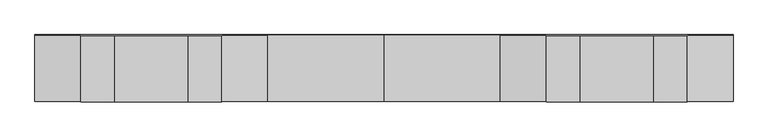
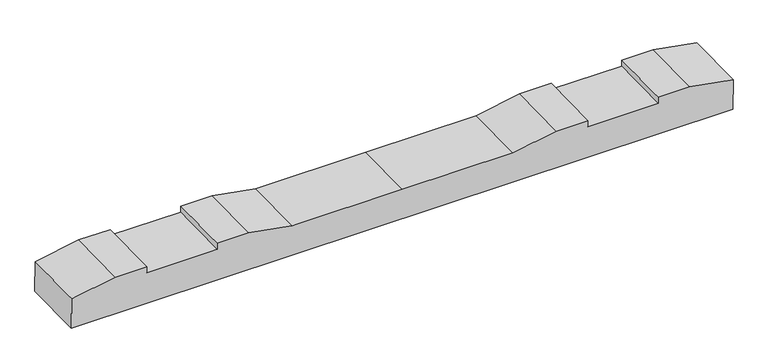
"""IFC4 building model written with IfcOpenShell, lengths in millimetres: proxy geometry, 轨枕-立面角度 : 轨枕-立面角度."""

from ifc_helpers import new_model, si_unit, frame, origin, place, context, project, spatial, polyline, outline, extrude, source, transform, mapped, element, save


def generic_models_cefc3702(model_context):
    return source(origin(), model_context, "Body", "SweptSolid", [
        extrude(outline(polyline([(0.0, 0.0), (2099.7669328, 0.0), (2099.7669328, -100.0206889), (1961.8834664, -124.4999999), (1861.8834664, -124.4999999), (1861.8834664, -104.4999999), (1637.8834664, -104.4999999), (1637.8834664, -124.4999999), (1537.8834664, -124.4999999), (1399.8834664, -99.9999999), (1049.8834664, -99.9999999), (699.8834664, -99.9999999), (561.8834664, -124.4999999), (461.8834664, -124.4999999), (461.8834664, -104.4999999), (237.8834664, -104.4999999), (237.8834664, -124.4999999), (137.8834664, -124.4999999), (0.0, -100.0206889), (0.0, 0.0)])), frame((-1049.8834664, -98.1536992, -106.2360641), z_axis=(0.0, 0.9998464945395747, 0.017521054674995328), x_axis=(1.0, 0.0, 0.0)), (0.0, 0.0, 1.0), 200.0),
    ])


if __name__ == "__main__":
    model = new_model("IFC4")
    model_context = context("Model", 3, world=origin())
    ifc_project = project(units=[si_unit("LENGTHUNIT", "METRE", prefix="MILLI")], contexts=[model_context])
    site = spatial("IfcSite", under=ifc_project)
    building = spatial("IfcBuilding", under=site)
    placement = place(None, origin())
    generic_models_shape = generic_models_cefc3702(model_context)
    element("IfcBuildingElementProxy", 1, Name="轨枕-立面角度 : 轨枕-立面角度", ObjectType="轨枕-立面角度 : 轨枕-立面角度", at=placement, inside=building, context=model_context, shape_type="MappedRepresentation", body=[
        mapped(generic_models_shape, transform((0.0, 0.0, 0.0), x_axis=(1.0, 0.0, 0.0), y_axis=(0.0, 1.0, 0.0), z_axis=(0.0, 0.0, 1.0))),
    ])
    save(model, "model.ifc")
